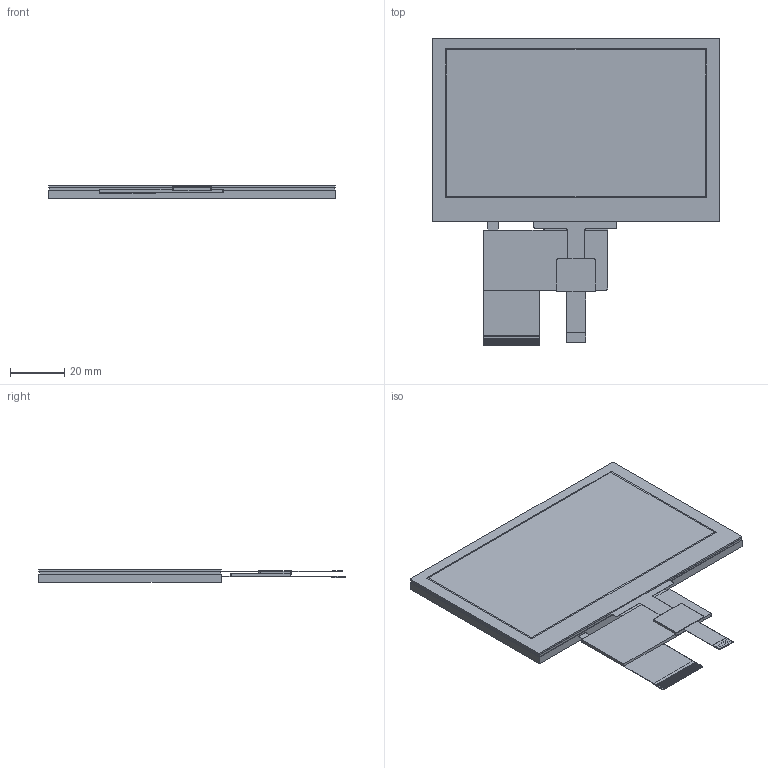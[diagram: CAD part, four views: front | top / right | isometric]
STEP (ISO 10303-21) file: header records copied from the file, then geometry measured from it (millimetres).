
FILE_DESCRIPTION (( 'STEP AP214' ), '1' );
FILE_NAME ('NHD-4.3-800480CF-ASXP-CTP_Rev2D.STEP', '2019-11-21T21:20:46', ( '' ), ( '' ), 'SwSTEP 2.0', 'SolidWorks 2018', '' );
FILE_SCHEMA (( 'AUTOMOTIVE_DESIGN' ));
Length unit declared in the file: millimetre
Products named in the file (3): 4.3 CPT; NHD-4.3-800480CF-ASXP_Rev2D; NHD-4.3-800480CF-ASXP-CTP_Rev2D
Assembly tree (2 placements, depth 2):
  NHD-4.3-800480CF-ASXP-CTP_Rev2D
    4.3 CPT
    NHD-4.3-800480CF-ASXP_Rev2D
Bounding box: 105.5 x 112.87 x 4.66 mm (x, y, z)
Volume: 28242.8 mm3; surface area: 56210.2 mm2
Topology: 14 solids, 14 shells, 405 faces, 1042 edges, 668 vertices
Faces by surface type: plane 377, cylinder 28
Entity records: 12581 total; most frequent: CARTESIAN_POINT 2120, ORIENTED_EDGE 2084, DIRECTION 1918, EDGE_CURVE 1042, VECTOR 986, LINE 986, VERTEX_POINT 668, AXIS2_PLACEMENT_3D 466
